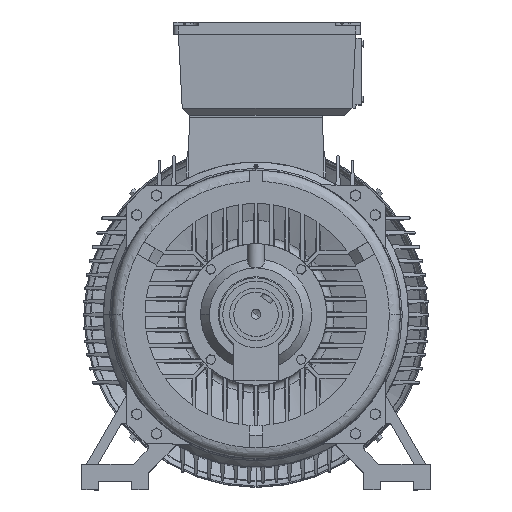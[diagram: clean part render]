
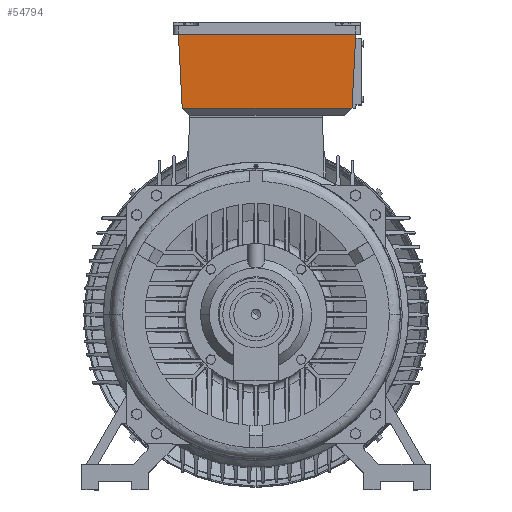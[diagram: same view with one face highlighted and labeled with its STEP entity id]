
A CAD part, top view. The second image highlights one B-rep face of the part: STEP entity #54794.
In plain terms, the highlighted planar face has unit normal (0, -0.051, 0.999) as drawn and (-0.999, 0, -0.051) by its records, which use the part's own axes.
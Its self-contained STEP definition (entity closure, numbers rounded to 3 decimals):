
#54794 = ADVANCED_FACE ( 'NONE', ( #234752 ), #259363, .T. ) ;
#92370 = ORIENTED_EDGE ( 'NONE', *, *, #275258, .T. ) ;
#92375 = ORIENTED_EDGE ( 'NONE', *, *, #275481, .T. ) ;
#92381 = ORIENTED_EDGE ( 'NONE', *, *, #275212, .T. ) ;
#92387 = ORIENTED_EDGE ( 'NONE', *, *, #275388, .T. ) ;
#92392 = ORIENTED_EDGE ( 'NONE', *, *, #275358, .F. ) ;
#92398 = ORIENTED_EDGE ( 'NONE', *, *, #275515, .F. ) ;
#94658 = EDGE_LOOP ( 'NONE', ( #92398, #92392, #92387, #92381, #92375, #92370 ) ) ;
#198940 = AXIS2_PLACEMENT_3D ( 'NONE', #259349, #259367, #259369 ) ;
#206887 = LINE ( 'NONE', #212659, #206908 ) ;
#206908 = VECTOR ( 'NONE', #212680, 1000. ) ;
#207010 = LINE ( 'NONE', #212815, #207019 ) ;
#207019 = VECTOR ( 'NONE', #212817, 1000. ) ;
#207264 = LINE ( 'NONE', #213115, #207273 ) ;
#207273 = VECTOR ( 'NONE', #213118, 1000. ) ;
#207336 = LINE ( 'NONE', #213228, #207345 ) ;
#207345 = VECTOR ( 'NONE', #213233, 1000. ) ;
#207519 = LINE ( 'NONE', #213605, #207523 ) ;
#207523 = VECTOR ( 'NONE', #213610, 1000. ) ;
#207571 = LINE ( 'NONE', #220913, #207577 ) ;
#207577 = VECTOR ( 'NONE', #220917, 1000. ) ;
#212659 = CARTESIAN_POINT ( 'NONE',  ( -133., 0., 13. ) ) ;
#212680 = DIRECTION ( 'NONE',  ( 0., -1., 0. ) ) ;
#212815 = CARTESIAN_POINT ( 'NONE',  ( -136.5, -176.5, 81.5 ) ) ;
#212817 = DIRECTION ( 'NONE',  ( -0.051, -0.051, 0.997 ) ) ;
#213115 = CARTESIAN_POINT ( 'NONE',  ( -140., 0., 150. ) ) ;
#213118 = DIRECTION ( 'NONE',  ( 0., -1., 0. ) ) ;
#213228 = CARTESIAN_POINT ( 'NONE',  ( -136.5, 136.5, 81.5 ) ) ;
#213233 = DIRECTION ( 'NONE',  ( 0.051, -0.051, -0.997 ) ) ;
#213605 = CARTESIAN_POINT ( 'NONE',  ( -133., 0., 13. ) ) ;
#213610 = DIRECTION ( 'NONE',  ( 0., -1., 0. ) ) ;
#220913 = CARTESIAN_POINT ( 'NONE',  ( -140., -180., 150. ) ) ;
#220917 = DIRECTION ( 'NONE',  ( 0., -1., 0. ) ) ;
#234752 = FACE_OUTER_BOUND ( 'NONE', #94658, .T. ) ;
#238480 = CARTESIAN_POINT ( 'NONE',  ( -140., 140., 150. ) ) ;
#238583 = CARTESIAN_POINT ( 'NONE',  ( -140., -180., 150. ) ) ;
#238662 = CARTESIAN_POINT ( 'NONE',  ( -133., -173., 13. ) ) ;
#238960 = CARTESIAN_POINT ( 'NONE',  ( -133., 0., 13. ) ) ;
#238970 = CARTESIAN_POINT ( 'NONE',  ( -140., 0., 150. ) ) ;
#239037 = CARTESIAN_POINT ( 'NONE',  ( -133., 133., 13. ) ) ;
#259349 = CARTESIAN_POINT ( 'NONE',  ( -140., -180., 150. ) ) ;
#259363 = PLANE ( 'NONE',  #198940 ) ;
#259367 = DIRECTION ( 'NONE',  ( -0.999, 0., -0.051 ) ) ;
#259369 = DIRECTION ( 'NONE',  ( 0., 1., 0. ) ) ;
#275212 = EDGE_CURVE ( 'NONE', #288697, #288591, #206887, .T. ) ;
#275258 = EDGE_CURVE ( 'NONE', #288090, #287974, #207010, .T. ) ;
#275358 = EDGE_CURVE ( 'NONE', #280582, #288612, #207264, .T. ) ;
#275388 = EDGE_CURVE ( 'NONE', #280582, #288697, #207336, .T. ) ;
#275481 = EDGE_CURVE ( 'NONE', #288591, #288090, #207519, .T. ) ;
#275515 = EDGE_CURVE ( 'NONE', #288612, #287974, #207571, .T. ) ;
#280582 = VERTEX_POINT ( 'NONE', #238480 ) ;
#287974 = VERTEX_POINT ( 'NONE', #238583 ) ;
#288090 = VERTEX_POINT ( 'NONE', #238662 ) ;
#288591 = VERTEX_POINT ( 'NONE', #238960 ) ;
#288612 = VERTEX_POINT ( 'NONE', #238970 ) ;
#288697 = VERTEX_POINT ( 'NONE', #239037 ) ;
